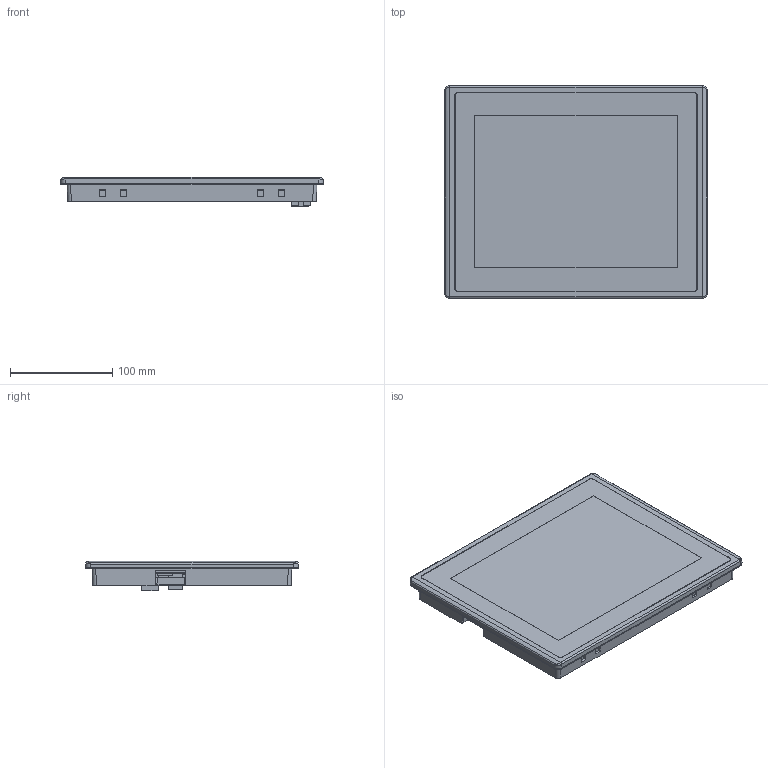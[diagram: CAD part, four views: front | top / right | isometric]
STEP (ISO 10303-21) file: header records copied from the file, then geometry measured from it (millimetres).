
FILE_DESCRIPTION((''),'2;1');
FILE_NAME('PRT0001','2022-12-05T',('Administrator'),(''),'PRO/ENGINEER BY PARAMETRIC TECHNOLOGY CORPORATION, 2014320','PRO/ENGINEER BY PARAMETRIC TECHNOLOGY CORPORATION, 2014320','');
FILE_SCHEMA(('CONFIG_CONTROL_DESIGN','SHAPE_APPEARANCE_LAYERS_GROUPS'));
Length unit declared in the file: millimetre
Products named in the file (1): PRT0001
Bounding box: 257 x 208 x 28.6 mm (x, y, z)
Volume: 533600.5 mm3; surface area: 476709.2 mm2
Topology: 1 solids, 1 shells, 1382 faces, 4242 edges, 2827 vertices
Faces by surface type: plane 928, cone 236, cylinder 202, bspline 16
Entity records: 56988 total; most frequent: CARTESIAN_POINT 9805, ORIENTED_EDGE 8484, DIRECTION 7788, EDGE_CURVE 4242, VECTOR 3204, LINE 3204, VERTEX_POINT 2827, AXIS2_PLACEMENT_3D 2292
